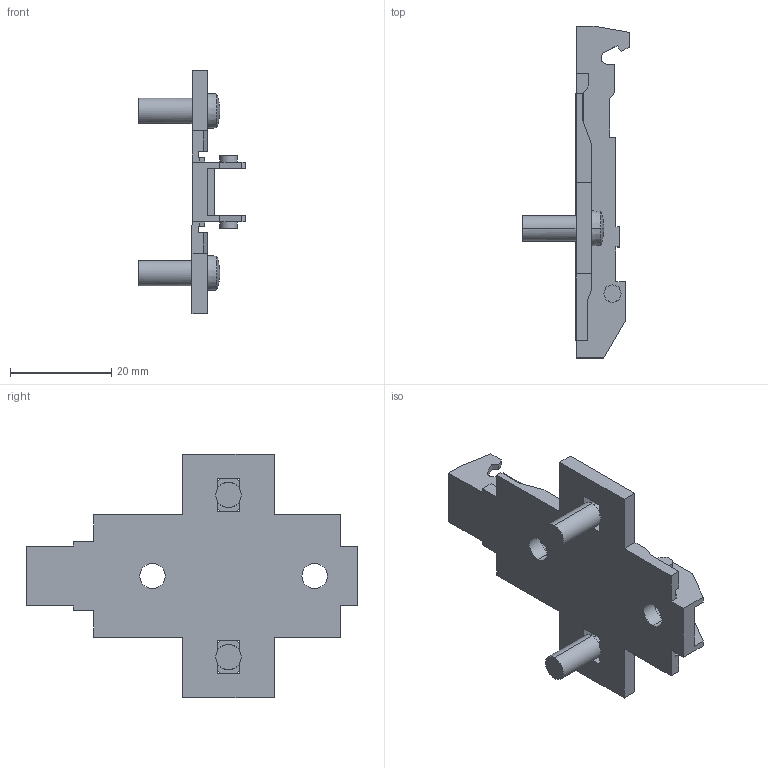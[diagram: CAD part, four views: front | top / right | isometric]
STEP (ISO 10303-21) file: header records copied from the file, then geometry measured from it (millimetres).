
FILE_DESCRIPTION (( 'STEP AP214' ), '1' );
FILE_NAME ('1D_Kreuzmontageplatte 37_32_5mm_Dübel_lang_0.step', '2018-10-02T12:39:20', ( '' ), ( '' ), 'SwSTEP 2.0', 'SolidWorks 2017', '' );
FILE_SCHEMA (( 'AUTOMOTIVE_DESIGN' ));
Length unit declared in the file: millimetre
Products named in the file (1): 1D_Kreuzmontageplatte 37_32_5mm_Dübel_lang_0
Bounding box: 21 x 65.5 x 48 mm (x, y, z)
Volume: 6302 mm3; surface area: 6549.5 mm2
Topology: 1 solids, 1 shells, 130 faces, 400 edges, 258 vertices
Faces by surface type: plane 100, cylinder 22, sphere 4, cone 4
Entity records: 4506 total; most frequent: ORIENTED_EDGE 800, CARTESIAN_POINT 789, DIRECTION 742, EDGE_CURVE 400, LINE 320, VECTOR 320, VERTEX_POINT 258, AXIS2_PLACEMENT_3D 211
